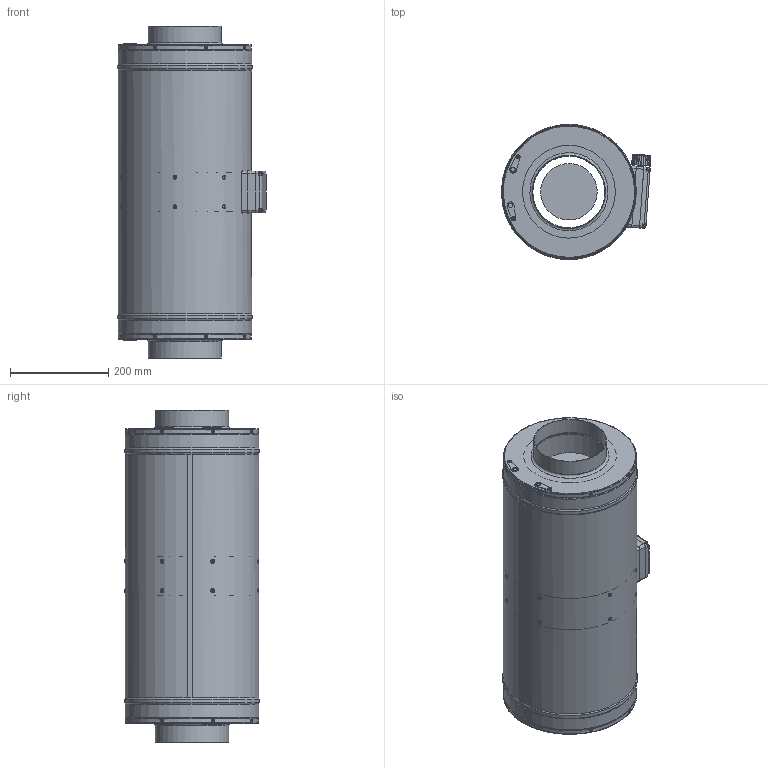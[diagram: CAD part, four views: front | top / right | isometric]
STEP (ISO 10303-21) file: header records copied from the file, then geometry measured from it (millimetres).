
FILE_DESCRIPTION (( 'STEP AP203' ), '1' );
FILE_NAME ('147626_02_EMIX006AC1S_step.step', '2022-05-27T07:08:55', ( '' ), ( '' ), 'SwSTEP 2.0', 'SolidWorks 2021', '' );
FILE_SCHEMA (( 'CONFIG_CONTROL_DESIGN' ));
Length unit declared in the file: millimetre
Products named in the file (1): 147626_02_EMIX006AC1S_step
Bounding box: 303.83 x 275 x 676 mm (x, y, z)
Surface area: 1518594.4 mm2 (no closed solid volume)
Topology: 0 solids, 77 shells, 491 faces, 2231 edges, 1771 vertices
Faces by surface type: plane 161, cylinder 108, bspline 93, torus 69, cone 60
Full cylindrical faces by diameter (mm): 2 x24, 7 x6, 8 x14, 9 x4, 147 x2, 149 x2, 271.2 x2, 271.6 x2, 275 x2
Entity records: 29673 total; most frequent: CARTESIAN_POINT 13872, DIRECTION 2852, ORIENTED_EDGE 2715, EDGE_CURVE 2108, VERTEX_POINT 1761, AXIS2_PLACEMENT_3D 998, LINE 856, VECTOR 856
